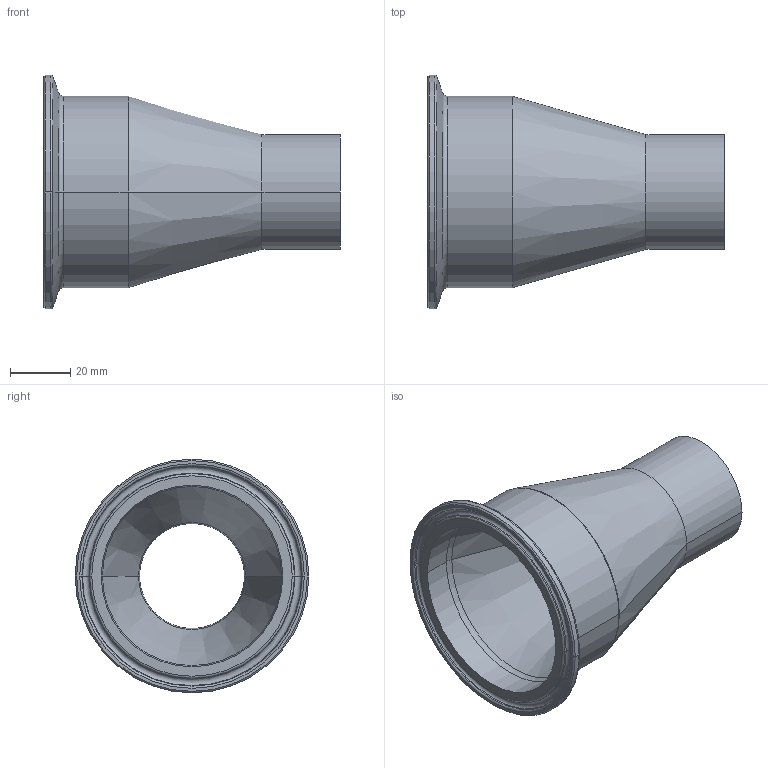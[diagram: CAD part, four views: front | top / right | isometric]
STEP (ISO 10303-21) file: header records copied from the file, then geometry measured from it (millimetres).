
FILE_DESCRIPTION (( 'STEP AP214' ), '1' );
FILE_NAME ('TE31SCW6L2.5x1.5-...STEP', '2016-05-29T11:31:41', ( 'eran' ), ( '' ), 'SwSTEP 2.0', 'SolidWorks 2016', '' );
FILE_SCHEMA (( 'AUTOMOTIVE_DESIGN' ));
Length unit declared in the file: millimetre
Products named in the file (1): TE31SCW6L2.5x1.5-..
Bounding box: 98.42 x 77.5 x 77.5 mm (x, y, z)
Volume: 73255.7 mm3; surface area: 32852.1 mm2
Topology: 1 solids, 1 shells, 41 faces, 82 edges, 44 vertices
Faces by surface type: torus 16, cone 12, cylinder 10, plane 3
Entity records: 1098 total; most frequent: DIRECTION 226, CARTESIAN_POINT 168, ORIENTED_EDGE 164, AXIS2_PLACEMENT_3D 102, EDGE_CURVE 82, CIRCLE 60, EDGE_LOOP 44, VERTEX_POINT 44
